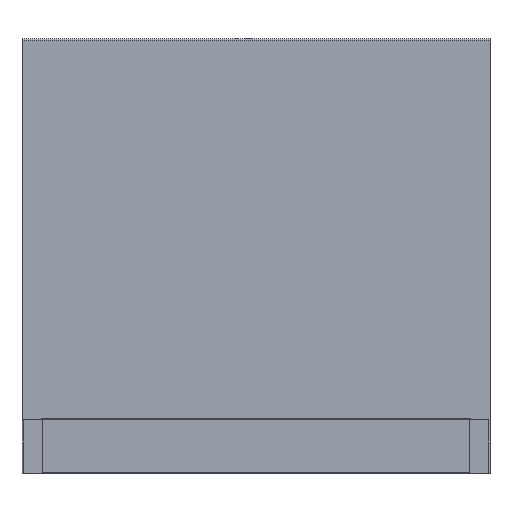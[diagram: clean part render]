
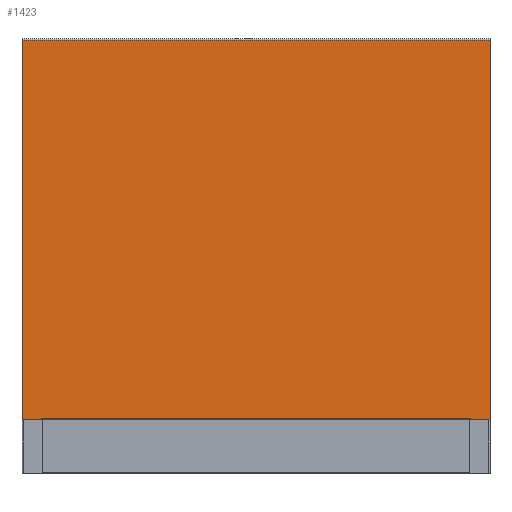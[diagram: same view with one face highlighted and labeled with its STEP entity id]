
A CAD part, front view. The second image highlights one B-rep face of the part: STEP entity #1423.
In plain terms, the highlighted planar face has unit normal (0, -1, 0).
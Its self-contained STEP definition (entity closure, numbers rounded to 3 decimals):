
#532=CARTESIAN_POINT('',(-320.,1.,82.));
#533=VERTEX_POINT('',#532);
#808=CARTESIAN_POINT('',(-320.1,1.,82.));
#809=VERTEX_POINT('',#808);
#810=CARTESIAN_POINT('',(-320.1,1.,82.));
#811=DIRECTION('',(1.,0.,-0.));
#812=VECTOR('',#811,0.1);
#813=LINE('',#810,#812);
#814=EDGE_CURVE('',#809,#533,#813,.T.);
#838=CARTESIAN_POINT('',(-320.1,1.,80.));
#839=VERTEX_POINT('',#838);
#848=CARTESIAN_POINT('',(-350.,1.,80.));
#849=VERTEX_POINT('',#848);
#850=CARTESIAN_POINT('',(-320.1,1.,80.));
#851=DIRECTION('',(-1.,0.,0.));
#852=VECTOR('',#851,29.9);
#853=LINE('',#850,#852);
#854=EDGE_CURVE('',#839,#849,#853,.T.);
#1004=CARTESIAN_POINT('',(350.,1.,80.));
#1005=VERTEX_POINT('',#1004);
#1006=CARTESIAN_POINT('',(320.1,1.,80.));
#1007=VERTEX_POINT('',#1006);
#1008=CARTESIAN_POINT('',(350.,1.,80.));
#1009=DIRECTION('',(-1.,0.,0.));
#1010=VECTOR('',#1009,29.9);
#1011=LINE('',#1008,#1010);
#1012=EDGE_CURVE('',#1005,#1007,#1011,.T.);
#1344=CARTESIAN_POINT('',(-350.,1.,648.));
#1345=VERTEX_POINT('',#1344);
#1353=CARTESIAN_POINT('',(350.,1.,648.));
#1354=VERTEX_POINT('',#1353);
#1355=CARTESIAN_POINT('',(350.,1.,648.));
#1356=DIRECTION('',(-1.,0.,0.));
#1357=VECTOR('',#1356,700.);
#1358=LINE('',#1355,#1357);
#1359=EDGE_CURVE('',#1354,#1345,#1358,.T.);
#1372=CARTESIAN_POINT('',(350.,1.,648.));
#1373=DIRECTION('',(0.,1.,0.));
#1374=DIRECTION('',(0.,0.,1.));
#1375=AXIS2_PLACEMENT_3D('',#1372,#1373,#1374);
#1376=PLANE('',#1375);
#1377=ORIENTED_EDGE('',*,*,#854,.F.);
#1378=CARTESIAN_POINT('',(-320.1,1.,80.));
#1379=DIRECTION('',(0.,0.,1.));
#1380=VECTOR('',#1379,2.);
#1381=LINE('',#1378,#1380);
#1382=EDGE_CURVE('',#839,#809,#1381,.T.);
#1383=ORIENTED_EDGE('',*,*,#1382,.T.);
#1384=ORIENTED_EDGE('',*,*,#814,.T.);
#1385=CARTESIAN_POINT('',(320.,1.,82.));
#1386=VERTEX_POINT('',#1385);
#1387=CARTESIAN_POINT('',(-320.,1.,82.));
#1388=DIRECTION('',(1.,0.,-0.));
#1389=VECTOR('',#1388,640.);
#1390=LINE('',#1387,#1389);
#1391=EDGE_CURVE('',#533,#1386,#1390,.T.);
#1392=ORIENTED_EDGE('',*,*,#1391,.T.);
#1393=CARTESIAN_POINT('',(320.1,1.,82.));
#1394=VERTEX_POINT('',#1393);
#1395=CARTESIAN_POINT('',(320.,1.,82.));
#1396=DIRECTION('',(1.,0.,-0.));
#1397=VECTOR('',#1396,0.1);
#1398=LINE('',#1395,#1397);
#1399=EDGE_CURVE('',#1386,#1394,#1398,.T.);
#1400=ORIENTED_EDGE('',*,*,#1399,.T.);
#1401=CARTESIAN_POINT('',(320.1,1.,82.));
#1402=DIRECTION('',(0.,0.,-1.));
#1403=VECTOR('',#1402,2.);
#1404=LINE('',#1401,#1403);
#1405=EDGE_CURVE('',#1394,#1007,#1404,.T.);
#1406=ORIENTED_EDGE('',*,*,#1405,.T.);
#1407=ORIENTED_EDGE('',*,*,#1012,.F.);
#1408=CARTESIAN_POINT('',(350.,1.,648.));
#1409=DIRECTION('',(0.,0.,-1.));
#1410=VECTOR('',#1409,568.);
#1411=LINE('',#1408,#1410);
#1412=EDGE_CURVE('',#1354,#1005,#1411,.T.);
#1413=ORIENTED_EDGE('',*,*,#1412,.F.);
#1414=ORIENTED_EDGE('',*,*,#1359,.T.);
#1415=CARTESIAN_POINT('',(-350.,1.,648.));
#1416=DIRECTION('',(0.,0.,-1.));
#1417=VECTOR('',#1416,568.);
#1418=LINE('',#1415,#1417);
#1419=EDGE_CURVE('',#1345,#849,#1418,.T.);
#1420=ORIENTED_EDGE('',*,*,#1419,.T.);
#1421=EDGE_LOOP('',(#1377,#1383,#1384,#1392,#1400,#1406,#1407,#1413,#1414,#1420));
#1422=FACE_BOUND('',#1421,.T.);
#1423=ADVANCED_FACE('',(#1422),#1376,.F.);
